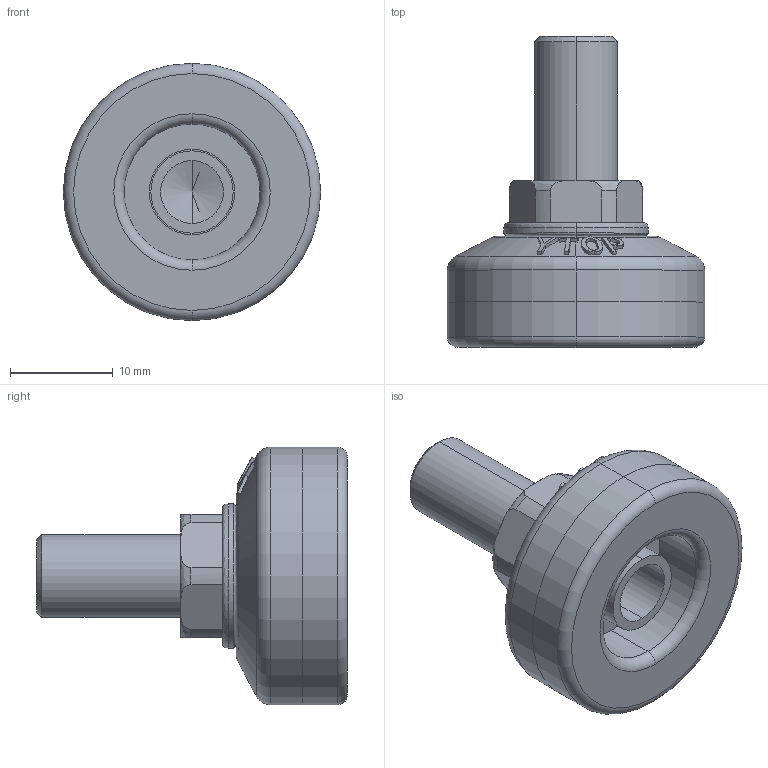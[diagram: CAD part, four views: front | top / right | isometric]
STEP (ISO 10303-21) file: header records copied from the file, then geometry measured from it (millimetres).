
FILE_DESCRIPTION (( 'STEP AP203' ), '1' );
FILE_NAME ('Q-25-814-PA.STEP', '2020-09-11T06:30:02', ( '' ), ( '' ), 'SwSTEP 2.0', 'SolidWorks 2016', '' );
FILE_SCHEMA (( 'CONFIG_CONTROL_DESIGN' ));
Length unit declared in the file: millimetre
Products named in the file (4): Q-25-814-PA; S倰覃誹褐_25裔赽; S倰覃誹褐_25菁菜; 穩諉蹟裝M8炵蹈_M8X14
Assembly tree (3 placements, depth 2):
  Q-25-814-PA
    S倰覃誹褐_25菁菜
    S倰覃誹褐_25裔赽
    穩諉蹟裝M8炵蹈_M8X14
Bounding box: 25 x 30.2 x 25 mm (x, y, z)
Volume: 4698.2 mm3; surface area: 5087.3 mm2
Topology: 3 solids, 3 shells, 145 faces, 347 edges, 219 vertices
Faces by surface type: bspline 48, plane 35, cylinder 32, torus 16, cone 14
Entity records: 8626 total; most frequent: CARTESIAN_POINT 5218, ORIENTED_EDGE 690, DIRECTION 507, EDGE_CURVE 345, VERTEX_POINT 219, AXIS2_PLACEMENT_3D 211, EDGE_LOOP 162, B_SPLINE_CURVE_WITH_KNOTS 148
